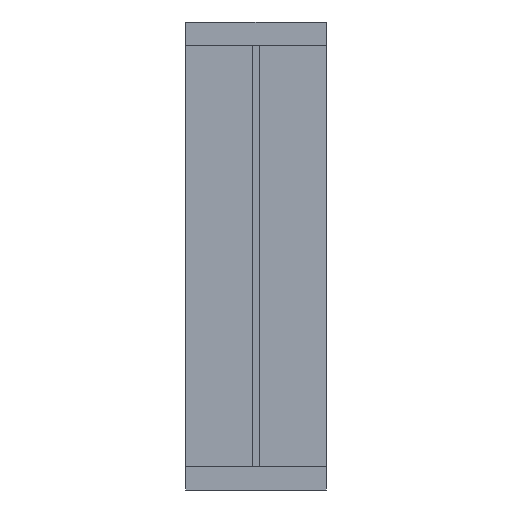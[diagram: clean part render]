
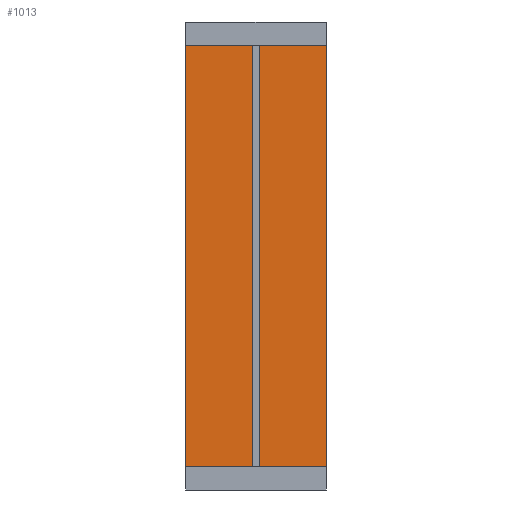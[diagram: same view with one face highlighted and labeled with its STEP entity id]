
A CAD part, front view. The second image highlights one B-rep face of the part: STEP entity #1013.
In plain terms, the highlighted planar face has unit normal (0, -1, 0).
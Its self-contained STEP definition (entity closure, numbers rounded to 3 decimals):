
#6 = VERTEX_POINT ( 'NONE', #860 ) ;
#12 = LINE ( 'NONE', #129, #197 ) ;
#29 = CARTESIAN_POINT ( 'NONE',  ( -300., 520., 1900. ) ) ;
#34 = VECTOR ( 'NONE', #1140, 1000. ) ;
#51 = DIRECTION ( 'NONE',  ( 0., 0., -1. ) ) ;
#66 = EDGE_CURVE ( 'NONE', #1178, #679, #699, .T. ) ;
#81 = VERTEX_POINT ( 'NONE', #963 ) ;
#91 = VECTOR ( 'NONE', #51, 1000. ) ;
#93 = EDGE_CURVE ( 'NONE', #6, #1139, #877, .T. ) ;
#95 = ORIENTED_EDGE ( 'NONE', *, *, #1110, .F. ) ;
#107 = CARTESIAN_POINT ( 'NONE',  ( 290., 520., 100. ) ) ;
#127 = EDGE_LOOP ( 'NONE', ( #322, #438, #177, #202, #751, #95, #848, #794, #397, #924, #1410, #459 ) ) ;
#129 = CARTESIAN_POINT ( 'NONE',  ( -290., 520., 2000. ) ) ;
#149 = VECTOR ( 'NONE', #1210, 1000. ) ;
#156 = DIRECTION ( 'NONE',  ( 1., 0., 0. ) ) ;
#158 = VECTOR ( 'NONE', #156, 1000. ) ;
#167 = EDGE_CURVE ( 'NONE', #1186, #6, #1038, .T. ) ;
#175 = VECTOR ( 'NONE', #218, 1000. ) ;
#177 = ORIENTED_EDGE ( 'NONE', *, *, #167, .F. ) ;
#192 = CARTESIAN_POINT ( 'NONE',  ( -290., 520., 2000. ) ) ;
#197 = VECTOR ( 'NONE', #1381, 1000. ) ;
#202 = ORIENTED_EDGE ( 'NONE', *, *, #521, .F. ) ;
#209 = EDGE_CURVE ( 'NONE', #1139, #1154, #1181, .T. ) ;
#218 = DIRECTION ( 'NONE',  ( -1., 0., 0. ) ) ;
#242 = EDGE_CURVE ( 'NONE', #81, #738, #12, .T. ) ;
#277 = LINE ( 'NONE', #192, #149 ) ;
#280 = LINE ( 'NONE', #405, #383 ) ;
#284 = AXIS2_PLACEMENT_3D ( 'NONE', #1010, #580, #1458 ) ;
#302 = EDGE_CURVE ( 'NONE', #738, #907, #280, .T. ) ;
#322 = ORIENTED_EDGE ( 'NONE', *, *, #209, .F. ) ;
#333 = VECTOR ( 'NONE', #910, 1000. ) ;
#352 = CARTESIAN_POINT ( 'NONE',  ( -290., 520., 100. ) ) ;
#358 = CARTESIAN_POINT ( 'NONE',  ( -300., 520., 100. ) ) ;
#383 = VECTOR ( 'NONE', #509, 1000. ) ;
#397 = ORIENTED_EDGE ( 'NONE', *, *, #302, .F. ) ;
#401 = CARTESIAN_POINT ( 'NONE',  ( 300., 520., 1900. ) ) ;
#405 = CARTESIAN_POINT ( 'NONE',  ( 290., 520., 2000. ) ) ;
#438 = ORIENTED_EDGE ( 'NONE', *, *, #93, .F. ) ;
#454 = FACE_OUTER_BOUND ( 'NONE', #127, .T. ) ;
#459 = ORIENTED_EDGE ( 'NONE', *, *, #1071, .F. ) ;
#482 = EDGE_CURVE ( 'NONE', #1316, #1481, #1095, .T. ) ;
#497 = CARTESIAN_POINT ( 'NONE',  ( 300., 520., 100. ) ) ;
#509 = DIRECTION ( 'NONE',  ( 0., 0., -1. ) ) ;
#512 = CARTESIAN_POINT ( 'NONE',  ( 290., 520., 100. ) ) ;
#519 = CARTESIAN_POINT ( 'NONE',  ( -290., 520., 0. ) ) ;
#521 = EDGE_CURVE ( 'NONE', #679, #1186, #814, .T. ) ;
#534 = CARTESIAN_POINT ( 'NONE',  ( -300., 520., 1900. ) ) ;
#537 = CARTESIAN_POINT ( 'NONE',  ( 290., 520., 2000. ) ) ;
#562 = LINE ( 'NONE', #1236, #34 ) ;
#577 = VECTOR ( 'NONE', #1229, 1000. ) ;
#580 = DIRECTION ( 'NONE',  ( 0., -1., 0. ) ) ;
#616 = CARTESIAN_POINT ( 'NONE',  ( 290., 520., 1900. ) ) ;
#626 = VECTOR ( 'NONE', #958, 1000. ) ;
#679 = VERTEX_POINT ( 'NONE', #734 ) ;
#699 = LINE ( 'NONE', #107, #905 ) ;
#705 = EDGE_CURVE ( 'NONE', #1265, #81, #277, .T. ) ;
#720 = LINE ( 'NONE', #949, #158 ) ;
#726 = VECTOR ( 'NONE', #1274, 1000. ) ;
#734 = CARTESIAN_POINT ( 'NONE',  ( 290., 520., 0. ) ) ;
#738 = VERTEX_POINT ( 'NONE', #537 ) ;
#751 = ORIENTED_EDGE ( 'NONE', *, *, #66, .F. ) ;
#794 = ORIENTED_EDGE ( 'NONE', *, *, #1472, .F. ) ;
#814 = LINE ( 'NONE', #1387, #333 ) ;
#848 = ORIENTED_EDGE ( 'NONE', *, *, #482, .F. ) ;
#860 = CARTESIAN_POINT ( 'NONE',  ( -290., 520., 100. ) ) ;
#877 = LINE ( 'NONE', #358, #175 ) ;
#905 = VECTOR ( 'NONE', #1028, 1000. ) ;
#907 = VERTEX_POINT ( 'NONE', #616 ) ;
#910 = DIRECTION ( 'NONE',  ( -1., 0., 0. ) ) ;
#924 = ORIENTED_EDGE ( 'NONE', *, *, #242, .F. ) ;
#949 = CARTESIAN_POINT ( 'NONE',  ( 290., 520., 1900. ) ) ;
#958 = DIRECTION ( 'NONE',  ( 0., 0., 1. ) ) ;
#963 = CARTESIAN_POINT ( 'NONE',  ( -290., 520., 2000. ) ) ;
#998 = CARTESIAN_POINT ( 'NONE',  ( -290., 520., 1900. ) ) ;
#1008 = CARTESIAN_POINT ( 'NONE',  ( 300., 520., 1900. ) ) ;
#1010 = CARTESIAN_POINT ( 'NONE',  ( 0., 520., 0. ) ) ;
#1013 = ADVANCED_FACE ( 'NONE', ( #454 ), #1019, .T. ) ;
#1019 = PLANE ( 'NONE',  #284 ) ;
#1028 = DIRECTION ( 'NONE',  ( 0., 0., -1. ) ) ;
#1038 = LINE ( 'NONE', #352, #726 ) ;
#1055 = CARTESIAN_POINT ( 'NONE',  ( -300., 520., 100. ) ) ;
#1071 = EDGE_CURVE ( 'NONE', #1154, #1265, #1467, .T. ) ;
#1095 = LINE ( 'NONE', #401, #91 ) ;
#1110 = EDGE_CURVE ( 'NONE', #1481, #1178, #562, .T. ) ;
#1139 = VERTEX_POINT ( 'NONE', #1055 ) ;
#1140 = DIRECTION ( 'NONE',  ( -1., 0., 0. ) ) ;
#1154 = VERTEX_POINT ( 'NONE', #534 ) ;
#1178 = VERTEX_POINT ( 'NONE', #512 ) ;
#1181 = LINE ( 'NONE', #29, #626 ) ;
#1186 = VERTEX_POINT ( 'NONE', #519 ) ;
#1210 = DIRECTION ( 'NONE',  ( 0., 0., 1. ) ) ;
#1229 = DIRECTION ( 'NONE',  ( 1., 0., 0. ) ) ;
#1236 = CARTESIAN_POINT ( 'NONE',  ( 300., 520., 100. ) ) ;
#1265 = VERTEX_POINT ( 'NONE', #998 ) ;
#1274 = DIRECTION ( 'NONE',  ( 0., 0., 1. ) ) ;
#1316 = VERTEX_POINT ( 'NONE', #1008 ) ;
#1379 = CARTESIAN_POINT ( 'NONE',  ( -290., 520., 1900. ) ) ;
#1381 = DIRECTION ( 'NONE',  ( 1., 0., 0. ) ) ;
#1387 = CARTESIAN_POINT ( 'NONE',  ( -290., 520., 0. ) ) ;
#1410 = ORIENTED_EDGE ( 'NONE', *, *, #705, .F. ) ;
#1458 = DIRECTION ( 'NONE',  ( 0., 0., -1. ) ) ;
#1467 = LINE ( 'NONE', #1379, #577 ) ;
#1472 = EDGE_CURVE ( 'NONE', #907, #1316, #720, .T. ) ;
#1481 = VERTEX_POINT ( 'NONE', #497 ) ;
